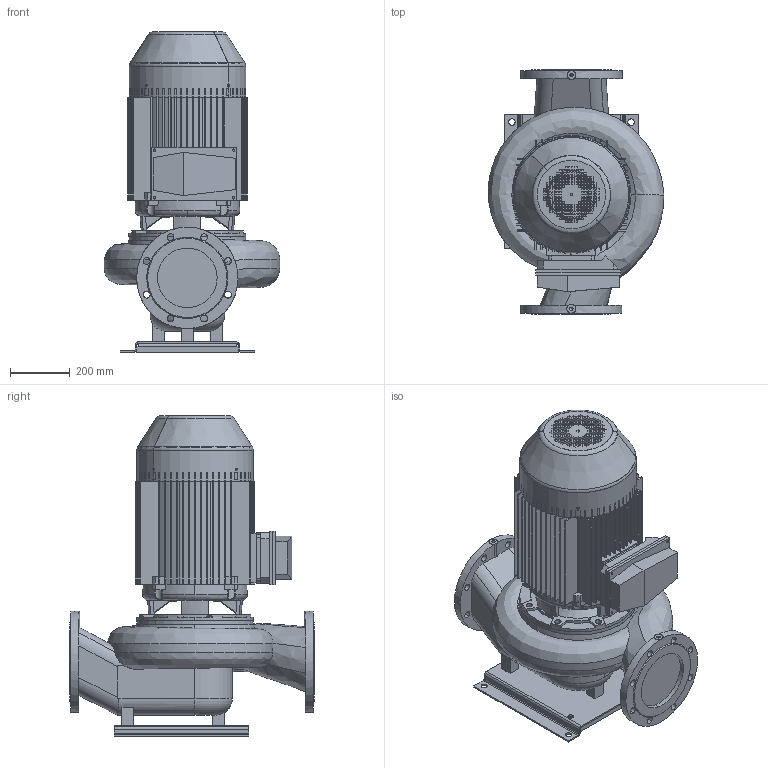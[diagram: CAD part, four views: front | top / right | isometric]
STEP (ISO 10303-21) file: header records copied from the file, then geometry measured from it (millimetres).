
FILE_DESCRIPTION(('STEP AP214'),'1');
FILE_NAME('export.stp','2018-05-28T10:56:21',(' '),(' '),'Spatial InterOp 3D',' ',' ');
FILE_SCHEMA(('AUTOMOTIVE_DESIGN { 1 0 10303 214 1 1 1 1 }'));
Length unit declared in the file: millimetre
Products named in the file (13): W_AL12024300KP205; V_TLL100SAL1202; V_PPAL1202; P100464; P100462; P101191; R200363; R200118; V_MKP205-K2-F32; R200144; R200138; R200137; R200368
Assembly tree (13 placements, depth 4):
  W_AL12024300KP205
    V_TLL100SAL1202
    V_PPAL1202
    P100464
      P100462
      P101191  x2
    V_MKP205-K2-F32
      R200363
        R200118
      R200144
      R200138
      R200137
      R200368
Bounding box: 589.13 x 820.22 x 1076 mm (x, y, z)
Volume: 74304984.9 mm3; surface area: 6022781.8 mm2
Topology: 9 solids, 10 shells, 1878 faces, 5489 edges, 3623 vertices
Faces by surface type: plane 1337, cylinder 418, cone 52, bspline 36, torus 35
Entity records: 104369 total; most frequent: CARTESIAN_POINT 16600, ORIENTED_EDGE 10764, DIRECTION 9767, STYLED_ITEM 6328, PRESENTATION_STYLE_ASSIGNMENT 6328, COLOUR_RGB 6328, EDGE_CURVE 5397, CURVE_STYLE 4473
